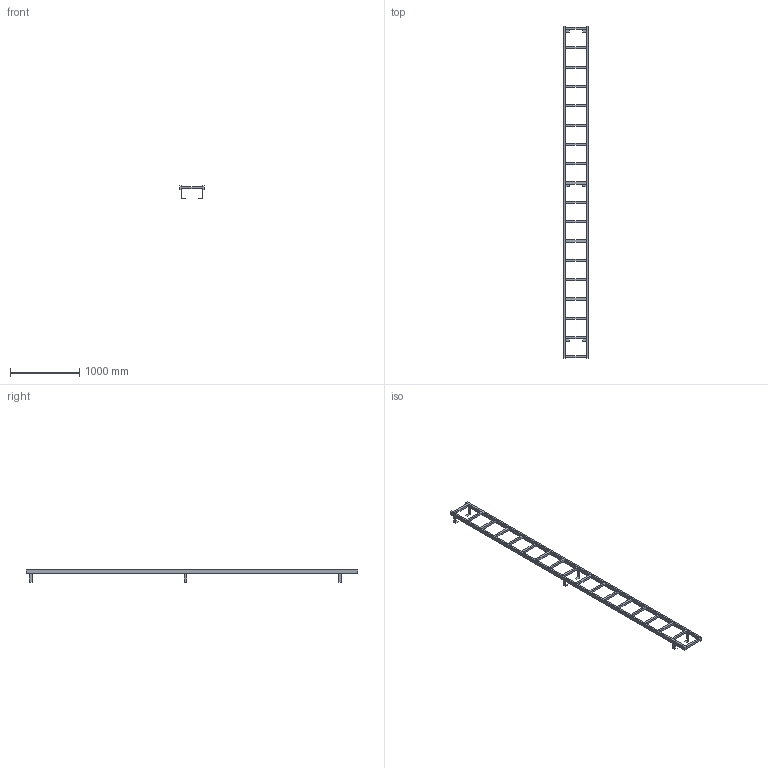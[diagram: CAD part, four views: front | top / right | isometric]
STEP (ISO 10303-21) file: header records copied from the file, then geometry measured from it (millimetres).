
FILE_DESCRIPTION((''),'2;1');
FILE_NAME('017_000109','2017-06-12T',('set'),('HUBER SE'),'PRO/ENGINEER BY PARAMETRIC TECHNOLOGY CORPORATION, 2015280','PRO/ENGINEER BY PARAMETRIC TECHNOLOGY CORPORATION, 2015280','');
FILE_SCHEMA(('CONFIG_CONTROL_DESIGN'));
Length unit declared in the file: millimetre
Products named in the file (1): 017_000109
Bounding box: 350 x 4810 x 178.5 mm (x, y, z)
Volume: 18665940 mm3; surface area: 2288212 mm2
Topology: 1 solids, 1 shells, 130 faces, 485 edges, 351 vertices
Faces by surface type: plane 130
Entity records: 5026 total; most frequent: CARTESIAN_POINT 1025, ORIENTED_EDGE 768, DIRECTION 736, VECTOR 438, LINE 438, EDGE_CURVE 384, VERTEX_POINT 250, EDGE_LOOP 158
